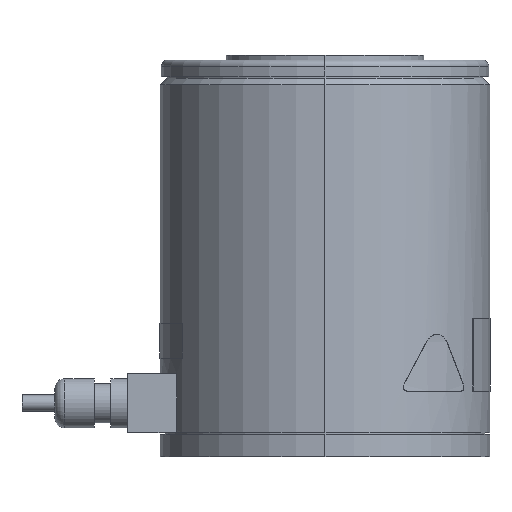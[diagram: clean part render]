
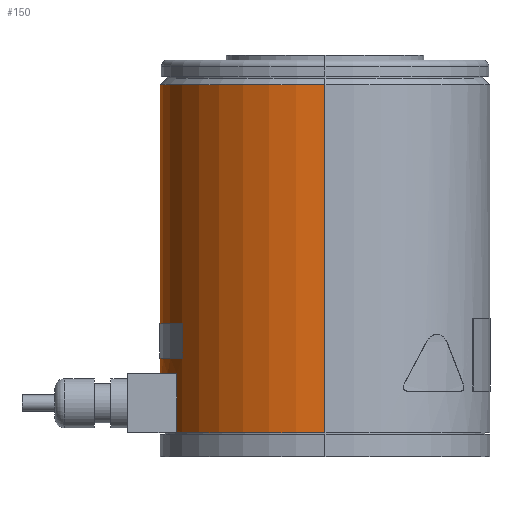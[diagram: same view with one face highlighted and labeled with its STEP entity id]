
A CAD part, left-side view. The second image highlights one B-rep face of the part: STEP entity #150.
In plain terms, the highlighted cylindrical face has radius 50 mm (diameter 100 mm), a partial arc.
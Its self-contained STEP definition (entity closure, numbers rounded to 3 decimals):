
#150 = ADVANCED_FACE ( 'NONE', ( #303, #311, #313 ), #307, .T. ) ;
#303 = FACE_BOUND ( 'NONE', #2193, .T. ) ;
#307 = CYLINDRICAL_SURFACE ( 'NONE', #1789, 50. ) ;
#311 = FACE_BOUND ( 'NONE', #922, .T. ) ;
#313 = FACE_OUTER_BOUND ( 'NONE', #1300, .T. ) ;
#450 = ORIENTED_EDGE ( 'NONE', *, *, #4147, .F. ) ;
#453 = ORIENTED_EDGE ( 'NONE', *, *, #4149, .F. ) ;
#473 = ORIENTED_EDGE ( 'NONE', *, *, #4151, .F. ) ;
#493 = ORIENTED_EDGE ( 'NONE', *, *, #3965, .F. ) ;
#496 = ORIENTED_EDGE ( 'NONE', *, *, #1627, .T. ) ;
#506 = ORIENTED_EDGE ( 'NONE', *, *, #3995, .F. ) ;
#527 = ORIENTED_EDGE ( 'NONE', *, *, #1632, .F. ) ;
#534 = ORIENTED_EDGE ( 'NONE', *, *, #3966, .T. ) ;
#640 = CIRCLE ( 'NONE', #1934, 50. ) ;
#648 = CIRCLE ( 'NONE', #1938, 50. ) ;
#817 = VECTOR ( 'NONE', #3888, 1000. ) ;
#818 = CIRCLE ( 'NONE', #6413, 50. ) ;
#819 = LINE ( 'NONE', #3862, #817 ) ;
#820 = CIRCLE ( 'NONE', #6415, 50. ) ;
#922 = EDGE_LOOP ( 'NONE', ( #506, #453, #493, #6051 ) ) ;
#1300 = EDGE_LOOP ( 'NONE', ( #6026, #534, #450, #473 ) ) ;
#1627 = EDGE_CURVE ( 'NONE', #5410, #5235, #640, .T. ) ;
#1632 = EDGE_CURVE ( 'NONE', #5207, #5224, #648, .T. ) ;
#1789 = AXIS2_PLACEMENT_3D ( 'NONE', #3341, #3336, #3337 ) ;
#1934 = AXIS2_PLACEMENT_3D ( 'NONE', #4360, #4315, #4321 ) ;
#1938 = AXIS2_PLACEMENT_3D ( 'NONE', #4303, #4354, #4367 ) ;
#2027 = AXIS2_PLACEMENT_3D ( 'NONE', #4599, #5660, #5658 ) ;
#2059 = AXIS2_PLACEMENT_3D ( 'NONE', #3431, #3420, #3417 ) ;
#2193 = EDGE_LOOP ( 'NONE', ( #5937, #496, #5773, #527 ) ) ;
#2733 = CIRCLE ( 'NONE', #2027, 50. ) ;
#2754 = LINE ( 'NONE', #3931, #2755 ) ;
#2755 = VECTOR ( 'NONE', #3930, 1000. ) ;
#2757 = VECTOR ( 'NONE', #5542, 1000. ) ;
#2763 = LINE ( 'NONE', #4236, #2757 ) ;
#2768 = LINE ( 'NONE', #6422, #2770 ) ;
#2770 = VECTOR ( 'NONE', #4592, 1000. ) ;
#2799 = VECTOR ( 'NONE', #4567, 1000. ) ;
#2806 = LINE ( 'NONE', #4509, #2799 ) ;
#2815 = LINE ( 'NONE', #4494, #2816 ) ;
#2816 = VECTOR ( 'NONE', #4564, 1000. ) ;
#2877 = CIRCLE ( 'NONE', #2059, 50. ) ;
#3336 = DIRECTION ( 'NONE',  ( 0., 0., -1. ) ) ;
#3337 = DIRECTION ( 'NONE',  ( -1., 0., 0. ) ) ;
#3341 = CARTESIAN_POINT ( 'NONE',  ( 0., 0., 0. ) ) ;
#3417 = DIRECTION ( 'NONE',  ( -1., 0., 0. ) ) ;
#3420 = DIRECTION ( 'NONE',  ( 0., 0., -1. ) ) ;
#3431 = CARTESIAN_POINT ( 'NONE',  ( 0., 0., 113. ) ) ;
#3600 = CARTESIAN_POINT ( 'NONE',  ( 50., 0., 7.3 ) ) ;
#3613 = CARTESIAN_POINT ( 'NONE',  ( 0., 0., 30. ) ) ;
#3630 = CARTESIAN_POINT ( 'NONE',  ( 21.75, 45.022, 8.3 ) ) ;
#3633 = CARTESIAN_POINT ( 'NONE',  ( -50., 0., 113. ) ) ;
#3642 = DIRECTION ( 'NONE',  ( 0., 0., 1. ) ) ;
#3643 = CARTESIAN_POINT ( 'NONE',  ( 25., 43.301, 40.5 ) ) ;
#3654 = CARTESIAN_POINT ( 'NONE',  ( 50., 0., 113. ) ) ;
#3709 = CARTESIAN_POINT ( 'NONE',  ( -50., 0., 7.3 ) ) ;
#3710 = CARTESIAN_POINT ( 'NONE',  ( 21.75, 45.022, 25.3 ) ) ;
#3712 = CARTESIAN_POINT ( 'NONE',  ( 25., 43.301, 30. ) ) ;
#3753 = DIRECTION ( 'NONE',  ( 0., 0., -1. ) ) ;
#3762 = CARTESIAN_POINT ( 'NONE',  ( 0., 0., 7.3 ) ) ;
#3862 = CARTESIAN_POINT ( 'NONE',  ( -50., 0., 0. ) ) ;
#3879 = DIRECTION ( 'NONE',  ( -1., 0., 0. ) ) ;
#3888 = DIRECTION ( 'NONE',  ( 0., 0., -1. ) ) ;
#3907 = CARTESIAN_POINT ( 'NONE',  ( -21.75, 45.022, 25.3 ) ) ;
#3913 = CARTESIAN_POINT ( 'NONE',  ( -25., 43.301, 30. ) ) ;
#3918 = CARTESIAN_POINT ( 'NONE',  ( -21.75, 45.022, 8.3 ) ) ;
#3919 = CARTESIAN_POINT ( 'NONE',  ( -25., 43.301, 40.5 ) ) ;
#3920 = DIRECTION ( 'NONE',  ( -1., 0., 0. ) ) ;
#3930 = DIRECTION ( 'NONE',  ( 0., 0., -1. ) ) ;
#3931 = CARTESIAN_POINT ( 'NONE',  ( -21.75, 45.022, 25.3 ) ) ;
#3941 = EDGE_CURVE ( 'NONE', #5222, #5468, #2733, .T. ) ;
#3959 = EDGE_CURVE ( 'NONE', #5235, #5224, #2754, .T. ) ;
#3965 = EDGE_CURVE ( 'NONE', #5468, #5409, #2763, .T. ) ;
#3966 = EDGE_CURVE ( 'NONE', #5460, #5505, #2768, .T. ) ;
#3995 = EDGE_CURVE ( 'NONE', #5229, #5222, #2806, .T. ) ;
#4000 = EDGE_CURVE ( 'NONE', #5410, #5207, #2815, .T. ) ;
#4040 = EDGE_CURVE ( 'NONE', #5205, #5460, #2877, .T. ) ;
#4147 = EDGE_CURVE ( 'NONE', #5411, #5505, #818, .T. ) ;
#4149 = EDGE_CURVE ( 'NONE', #5409, #5229, #820, .T. ) ;
#4151 = EDGE_CURVE ( 'NONE', #5205, #5411, #819, .T. ) ;
#4236 = CARTESIAN_POINT ( 'NONE',  ( 25., 43.301, 0. ) ) ;
#4303 = CARTESIAN_POINT ( 'NONE',  ( 0., 0., 8.3 ) ) ;
#4315 = DIRECTION ( 'NONE',  ( 0., 0., 1. ) ) ;
#4321 = DIRECTION ( 'NONE',  ( -1., 0., 0. ) ) ;
#4354 = DIRECTION ( 'NONE',  ( 0., 0., 1. ) ) ;
#4360 = CARTESIAN_POINT ( 'NONE',  ( 0., 0., 25.3 ) ) ;
#4367 = DIRECTION ( 'NONE',  ( -1., 0., 0. ) ) ;
#4494 = CARTESIAN_POINT ( 'NONE',  ( 21.75, 45.022, 25.3 ) ) ;
#4509 = CARTESIAN_POINT ( 'NONE',  ( -25., 43.301, 0. ) ) ;
#4564 = DIRECTION ( 'NONE',  ( 0., 0., -1. ) ) ;
#4567 = DIRECTION ( 'NONE',  ( 0., 0., 1. ) ) ;
#4592 = DIRECTION ( 'NONE',  ( 0., 0., -1. ) ) ;
#4599 = CARTESIAN_POINT ( 'NONE',  ( 0., 0., 40.5 ) ) ;
#5205 = VERTEX_POINT ( 'NONE', #3633 ) ;
#5207 = VERTEX_POINT ( 'NONE', #3630 ) ;
#5222 = VERTEX_POINT ( 'NONE', #3919 ) ;
#5224 = VERTEX_POINT ( 'NONE', #3918 ) ;
#5229 = VERTEX_POINT ( 'NONE', #3913 ) ;
#5235 = VERTEX_POINT ( 'NONE', #3907 ) ;
#5409 = VERTEX_POINT ( 'NONE', #3712 ) ;
#5410 = VERTEX_POINT ( 'NONE', #3710 ) ;
#5411 = VERTEX_POINT ( 'NONE', #3709 ) ;
#5460 = VERTEX_POINT ( 'NONE', #3654 ) ;
#5468 = VERTEX_POINT ( 'NONE', #3643 ) ;
#5505 = VERTEX_POINT ( 'NONE', #3600 ) ;
#5542 = DIRECTION ( 'NONE',  ( 0., 0., -1. ) ) ;
#5658 = DIRECTION ( 'NONE',  ( 1., 0., 0. ) ) ;
#5660 = DIRECTION ( 'NONE',  ( 0., 0., -1. ) ) ;
#5773 = ORIENTED_EDGE ( 'NONE', *, *, #3959, .T. ) ;
#5937 = ORIENTED_EDGE ( 'NONE', *, *, #4000, .F. ) ;
#6026 = ORIENTED_EDGE ( 'NONE', *, *, #4040, .T. ) ;
#6051 = ORIENTED_EDGE ( 'NONE', *, *, #3941, .F. ) ;
#6413 = AXIS2_PLACEMENT_3D ( 'NONE', #3762, #3753, #3879 ) ;
#6415 = AXIS2_PLACEMENT_3D ( 'NONE', #3613, #3642, #3920 ) ;
#6422 = CARTESIAN_POINT ( 'NONE',  ( 50., 0., 0. ) ) ;
